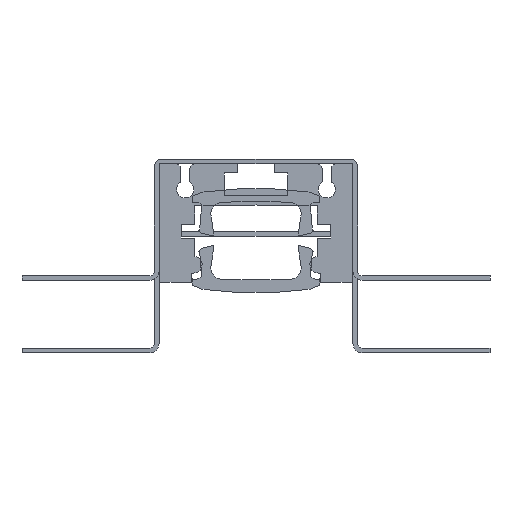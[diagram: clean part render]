
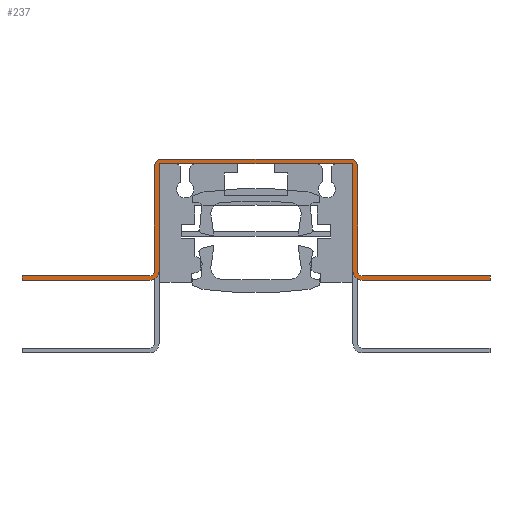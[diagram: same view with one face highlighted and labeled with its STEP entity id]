
A CAD part, front view. The second image highlights one B-rep face of the part: STEP entity #237.
In plain terms, the highlighted planar face has unit normal (0, -1, 0).
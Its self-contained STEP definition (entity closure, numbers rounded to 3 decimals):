
#237 = ADVANCED_FACE( '', ( #527 ), #528, .F. );
#527 = FACE_OUTER_BOUND( '', #864, .T. );
#528 = PLANE( '', #865 );
#864 = EDGE_LOOP( '', ( #1469, #1470, #1471, #1472, #1473, #1474, #1475, #1476, #1477, #1478, #1479, #1480, #1481, #1482, #1483, #1484, #1485, #1486, #1487, #1488 ) );
#865 = AXIS2_PLACEMENT_3D( '', #1489, #1490, #1491 );
#1469 = ORIENTED_EDGE( '', *, *, #2251, .F. );
#1470 = ORIENTED_EDGE( '', *, *, #2235, .F. );
#1471 = ORIENTED_EDGE( '', *, *, #2062, .T. );
#1472 = ORIENTED_EDGE( '', *, *, #2094, .F. );
#1473 = ORIENTED_EDGE( '', *, *, #2024, .F. );
#1474 = ORIENTED_EDGE( '', *, *, #2230, .T. );
#1475 = ORIENTED_EDGE( '', *, *, #2088, .T. );
#1476 = ORIENTED_EDGE( '', *, *, #2252, .T. );
#1477 = ORIENTED_EDGE( '', *, *, #2050, .T. );
#1478 = ORIENTED_EDGE( '', *, *, #2203, .T. );
#1479 = ORIENTED_EDGE( '', *, *, #2212, .T. );
#1480 = ORIENTED_EDGE( '', *, *, #2253, .T. );
#1481 = ORIENTED_EDGE( '', *, *, #2142, .F. );
#1482 = ORIENTED_EDGE( '', *, *, #2254, .T. );
#1483 = ORIENTED_EDGE( '', *, *, #2155, .T. );
#1484 = ORIENTED_EDGE( '', *, *, #2238, .F. );
#1485 = ORIENTED_EDGE( '', *, *, #2255, .F. );
#1486 = ORIENTED_EDGE( '', *, *, #2206, .F. );
#1487 = ORIENTED_EDGE( '', *, *, #2227, .F. );
#1488 = ORIENTED_EDGE( '', *, *, #2199, .F. );
#1489 = CARTESIAN_POINT( '', ( -11.15, -7.5, 0.5 ) );
#1490 = DIRECTION( '', ( 0., 1., 0. ) );
#1491 = DIRECTION( '', ( 0., 0., 1. ) );
#2024 = EDGE_CURVE( '', #2413, #2415, #2416, .T. );
#2050 = EDGE_CURVE( '', #2456, #2460, #2462, .T. );
#2062 = EDGE_CURVE( '', #2478, #2482, #2484, .T. );
#2088 = EDGE_CURVE( '', #2528, #2529, #2530, .T. );
#2094 = EDGE_CURVE( '', #2415, #2482, #2538, .T. );
#2142 = EDGE_CURVE( '', #2620, #2621, #2622, .T. );
#2155 = EDGE_CURVE( '', #2641, #2638, #2642, .T. );
#2199 = EDGE_CURVE( '', #2709, #2705, #2711, .T. );
#2203 = EDGE_CURVE( '', #2460, #2715, #2717, .T. );
#2206 = EDGE_CURVE( '', #2719, #2722, #2723, .T. );
#2212 = EDGE_CURVE( '', #2715, #2730, #2732, .T. );
#2227 = EDGE_CURVE( '', #2705, #2719, #2753, .T. );
#2230 = EDGE_CURVE( '', #2413, #2528, #2757, .T. );
#2235 = EDGE_CURVE( '', #2478, #2760, #2764, .F. );
#2238 = EDGE_CURVE( '', #2767, #2638, #2769, .T. );
#2251 = EDGE_CURVE( '', #2760, #2709, #2786, .T. );
#2252 = EDGE_CURVE( '', #2529, #2456, #2787, .F. );
#2253 = EDGE_CURVE( '', #2730, #2621, #2788, .T. );
#2254 = EDGE_CURVE( '', #2620, #2641, #2789, .T. );
#2255 = EDGE_CURVE( '', #2722, #2767, #2790, .T. );
#2413 = VERTEX_POINT( '', #2993 );
#2415 = VERTEX_POINT( '', #2996 );
#2416 = LINE( '', #2997, #2998 );
#2456 = VERTEX_POINT( '', #3051 );
#2460 = VERTEX_POINT( '', #3057 );
#2462 = LINE( '', #3060, #3061 );
#2478 = VERTEX_POINT( '', #3081 );
#2482 = VERTEX_POINT( '', #3087 );
#2484 = LINE( '', #3090, #3091 );
#2528 = VERTEX_POINT( '', #3148 );
#2529 = VERTEX_POINT( '', #3149 );
#2530 = LINE( '', #3150, #3151 );
#2538 = LINE( '', #3163, #3164 );
#2620 = VERTEX_POINT( '', #3278 );
#2621 = VERTEX_POINT( '', #3279 );
#2622 = LINE( '', #3280, #3281 );
#2638 = VERTEX_POINT( '', #3303 );
#2641 = VERTEX_POINT( '', #3307 );
#2642 = LINE( '', #3308, #3309 );
#2705 = VERTEX_POINT( '', #3399 );
#2709 = VERTEX_POINT( '', #3404 );
#2711 = CIRCLE( '', #3407, 0.7 );
#2715 = VERTEX_POINT( '', #3411 );
#2717 = CIRCLE( '', #3414, 0.2 );
#2719 = VERTEX_POINT( '', #3416 );
#2722 = VERTEX_POINT( '', #3420 );
#2723 = CIRCLE( '', #3421, 0.7 );
#2730 = VERTEX_POINT( '', #3430 );
#2732 = LINE( '', #3433, #3434 );
#2753 = LINE( '', #3462, #3463 );
#2757 = CIRCLE( '', #3467, 1. );
#2760 = VERTEX_POINT( '', #3470 );
#2764 = CIRCLE( '', #3475, 0.5 );
#2767 = VERTEX_POINT( '', #3478 );
#2769 = CIRCLE( '', #3481, 0.5 );
#2786 = LINE( '', #3505, #3506 );
#2787 = CIRCLE( '', #3507, 0.2 );
#2788 = CIRCLE( '', #3508, 1. );
#2789 = LINE( '', #3509, #3510 );
#2790 = LINE( '', #3511, #3512 );
#2993 = CARTESIAN_POINT( '', ( -11.65, -7.5, -12.8 ) );
#2996 = CARTESIAN_POINT( '', ( -25.7, -7.5, -12.8 ) );
#2997 = CARTESIAN_POINT( '', ( -11.128, -7.5, -12.8 ) );
#2998 = VECTOR( '', #3793, 1000. );
#3051 = CARTESIAN_POINT( '', ( -10.45, -7.5, 0. ) );
#3057 = CARTESIAN_POINT( '', ( 10.45, -7.5, 0. ) );
#3060 = CARTESIAN_POINT( '', ( -11.15, -7.5, 0. ) );
#3061 = VECTOR( '', #3822, 1000. );
#3081 = CARTESIAN_POINT( '', ( -11.65, -7.5, -12.3 ) );
#3087 = CARTESIAN_POINT( '', ( -25.7, -7.5, -12.3 ) );
#3090 = CARTESIAN_POINT( '', ( -11.128, -7.5, -12.3 ) );
#3091 = VECTOR( '', #3836, 1000. );
#3148 = CARTESIAN_POINT( '', ( -10.65, -7.5, -11.8 ) );
#3149 = CARTESIAN_POINT( '', ( -10.65, -7.5, -0.2 ) );
#3150 = CARTESIAN_POINT( '', ( -10.65, -7.5, -12.8 ) );
#3151 = VECTOR( '', #3868, 1000. );
#3163 = CARTESIAN_POINT( '', ( -25.7, -7.5, -12.8 ) );
#3164 = VECTOR( '', #3873, 1000. );
#3278 = CARTESIAN_POINT( '', ( 25.7, -7.5, -12.8 ) );
#3279 = CARTESIAN_POINT( '', ( 11.65, -7.5, -12.8 ) );
#3280 = CARTESIAN_POINT( '', ( 11.128, -7.5, -12.8 ) );
#3281 = VECTOR( '', #3918, 1000. );
#3303 = CARTESIAN_POINT( '', ( 11.65, -7.5, -12.3 ) );
#3307 = CARTESIAN_POINT( '', ( 25.7, -7.5, -12.3 ) );
#3308 = CARTESIAN_POINT( '', ( 11.128, -7.5, -12.3 ) );
#3309 = VECTOR( '', #3932, 1000. );
#3399 = CARTESIAN_POINT( '', ( -10.45, -7.5, 0.5 ) );
#3404 = CARTESIAN_POINT( '', ( -11.15, -7.5, -0.2 ) );
#3407 = AXIS2_PLACEMENT_3D( '', #3989, #3990, #3991 );
#3411 = CARTESIAN_POINT( '', ( 10.65, -7.5, -0.2 ) );
#3414 = AXIS2_PLACEMENT_3D( '', #3996, #3997, #3998 );
#3416 = CARTESIAN_POINT( '', ( 10.45, -7.5, 0.5 ) );
#3420 = CARTESIAN_POINT( '', ( 11.15, -7.5, -0.2 ) );
#3421 = AXIS2_PLACEMENT_3D( '', #4000, #4001, #4002 );
#3430 = CARTESIAN_POINT( '', ( 10.65, -7.5, -11.8 ) );
#3433 = CARTESIAN_POINT( '', ( 10.65, -7.5, 0.087 ) );
#3434 = VECTOR( '', #4009, 1000. );
#3462 = CARTESIAN_POINT( '', ( -11.15, -7.5, 0.5 ) );
#3463 = VECTOR( '', #4023, 1000. );
#3467 = AXIS2_PLACEMENT_3D( '', #4027, #4028, #4029 );
#3470 = CARTESIAN_POINT( '', ( -11.15, -7.5, -11.8 ) );
#3475 = AXIS2_PLACEMENT_3D( '', #4037, #4038, #4039 );
#3478 = CARTESIAN_POINT( '', ( 11.15, -7.5, -11.8 ) );
#3481 = AXIS2_PLACEMENT_3D( '', #4041, #4042, #4043 );
#3505 = CARTESIAN_POINT( '', ( -11.15, -7.5, -12.8 ) );
#3506 = VECTOR( '', #4054, 1000. );
#3507 = AXIS2_PLACEMENT_3D( '', #4055, #4056, #4057 );
#3508 = AXIS2_PLACEMENT_3D( '', #4058, #4059, #4060 );
#3509 = CARTESIAN_POINT( '', ( 25.7, -7.5, -12.8 ) );
#3510 = VECTOR( '', #4061, 1000. );
#3511 = CARTESIAN_POINT( '', ( 11.15, -7.5, 0.087 ) );
#3512 = VECTOR( '', #4062, 1000. );
#3793 = DIRECTION( '', ( -1., 0., 0. ) );
#3822 = DIRECTION( '', ( 1., 0., 0. ) );
#3836 = DIRECTION( '', ( -1., 0., 0. ) );
#3868 = DIRECTION( '', ( 0., 0., 1. ) );
#3873 = DIRECTION( '', ( 0., 0., 1. ) );
#3918 = DIRECTION( '', ( -1., 0., 0. ) );
#3932 = DIRECTION( '', ( -1., 0., 0. ) );
#3989 = CARTESIAN_POINT( '', ( -10.45, -7.5, -0.2 ) );
#3990 = DIRECTION( '', ( 0., 1., 0. ) );
#3991 = DIRECTION( '', ( 0., 0., -1. ) );
#3996 = CARTESIAN_POINT( '', ( 10.45, -7.5, -0.2 ) );
#3997 = DIRECTION( '', ( 0., 1., 0. ) );
#3998 = DIRECTION( '', ( 0., 0., 1. ) );
#4000 = CARTESIAN_POINT( '', ( 10.45, -7.5, -0.2 ) );
#4001 = DIRECTION( '', ( 0., 1., 0. ) );
#4002 = DIRECTION( '', ( 0., 0., -1. ) );
#4009 = DIRECTION( '', ( 0., 0., -1. ) );
#4023 = DIRECTION( '', ( 1., 0., 0. ) );
#4027 = CARTESIAN_POINT( '', ( -11.65, -7.5, -11.8 ) );
#4028 = DIRECTION( '', ( 0., -1., 0. ) );
#4029 = DIRECTION( '', ( -1., 0., 0. ) );
#4037 = CARTESIAN_POINT( '', ( -11.65, -7.5, -11.8 ) );
#4038 = DIRECTION( '', ( 0., 1., 0. ) );
#4039 = DIRECTION( '', ( 0., 0., 1. ) );
#4041 = CARTESIAN_POINT( '', ( 11.65, -7.5, -11.8 ) );
#4042 = DIRECTION( '', ( 0., -1., 0. ) );
#4043 = DIRECTION( '', ( 0., 0., -1. ) );
#4054 = DIRECTION( '', ( 0., 0., 1. ) );
#4055 = CARTESIAN_POINT( '', ( -10.45, -7.5, -0.2 ) );
#4056 = DIRECTION( '', ( 0., -1., 0. ) );
#4057 = DIRECTION( '', ( 0., 0., -1. ) );
#4058 = CARTESIAN_POINT( '', ( 11.65, -7.5, -11.8 ) );
#4059 = DIRECTION( '', ( 0., -1., 0. ) );
#4060 = DIRECTION( '', ( 1., 0., 0. ) );
#4061 = DIRECTION( '', ( 0., 0., 1. ) );
#4062 = DIRECTION( '', ( 0., 0., -1. ) );
